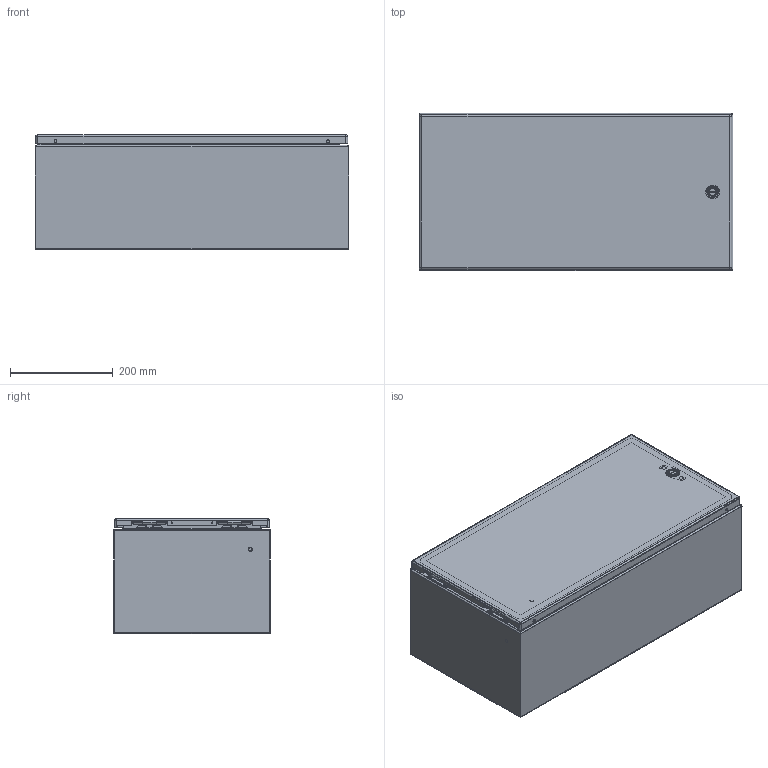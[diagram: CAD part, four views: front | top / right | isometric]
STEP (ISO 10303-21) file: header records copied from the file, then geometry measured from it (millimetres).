
FILE_DESCRIPTION (( 'STEP AP203' ), '1' );
FILE_NAME ('29392.step', '2015-03-30T06:03:25', ( '' ), ( '' ), 'SwSTEP 2.0', 'SolidWorks 2010', '' );
FILE_SCHEMA (( 'CONFIG_CONTROL_DESIGN' ));
Length unit declared in the file: inch
Products named in the file (23): 29392; 89116754; 89116753_default; 23271001_After Weld; 89116727_assy; 89116724_weldment; 89116721; 99401225; 64101001; 64201001; 87541994_Installed Height; 87541995; 64202001; 64210001; 64203001; 89116733; 87543027; 89076399; 89076193; 89056623; 87929507; 87929767; 87929769_Installed on Pin
Assembly tree (29 placements, depth 4):
  29392
    89116727_assy
      89116724_weldment
        99401225
        89116721
      64101001
        64203001
        64210001
        64202001
        87541995
        87541994_Installed Height
        64201001
      89116733
    87929507  x2
      87929769_Installed on Pin
      87929767
    89116754
      23271001_After Weld  x4
      99401225
      89116753_default
    89076399  x2
      89056623
      89076193
    87543027  x2
Bounding box: 609.6 x 304.8 x 223.9 mm (x, y, z)
Volume: 1150719.9 mm3; surface area: 1739926.2 mm2
Topology: 26 solids, 26 shells, 1252 faces, 3051 edges, 1866 vertices
Faces by surface type: plane 525, cylinder 429, bspline 144, torus 92, cone 54, sphere 8
Entity records: 33572 total; most frequent: CARTESIAN_POINT 9895, ORIENTED_EDGE 4480, DIRECTION 4226, EDGE_CURVE 2240, AXIS2_PLACEMENT_3D 1501, VERTEX_POINT 1380, VECTOR 1224, LINE 1224
